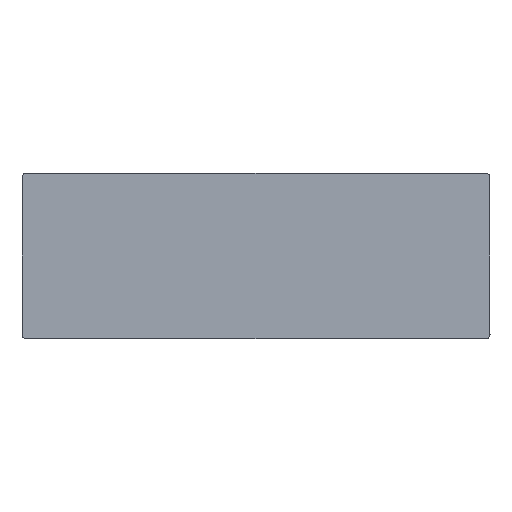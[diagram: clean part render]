
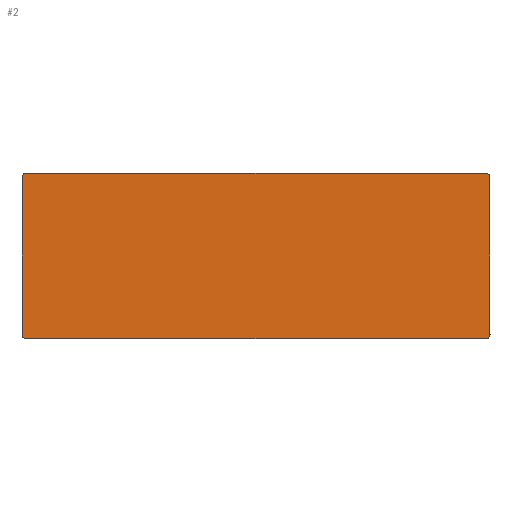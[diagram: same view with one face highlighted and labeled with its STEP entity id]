
A CAD part, front view. The second image highlights one B-rep face of the part: STEP entity #2.
In plain terms, the highlighted planar face has unit normal (0, -1, 0).
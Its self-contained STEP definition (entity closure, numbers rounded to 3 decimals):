
#2 = ADVANCED_FACE ( 'NONE', ( #410 ), #2525, .T. ) ;
#83 = VERTEX_POINT ( 'NONE', #630 ) ;
#87 = LINE ( 'NONE', #105, #1714 ) ;
#102 = CARTESIAN_POINT ( 'NONE',  ( 25.769, 0., -9.1 ) ) ;
#105 = CARTESIAN_POINT ( 'NONE',  ( -25.769, 0., -9.1 ) ) ;
#150 = VECTOR ( 'NONE', #2649, 1000. ) ;
#156 = VERTEX_POINT ( 'NONE', #441 ) ;
#181 = CARTESIAN_POINT ( 'NONE',  ( 25.769, 0., 8.6 ) ) ;
#189 = CARTESIAN_POINT ( 'NONE',  ( 25.269, 0., -9.1 ) ) ;
#297 = EDGE_CURVE ( 'NONE', #725, #83, #2522, .T. ) ;
#299 = VERTEX_POINT ( 'NONE', #181 ) ;
#312 = VERTEX_POINT ( 'NONE', #2295 ) ;
#329 = EDGE_CURVE ( 'NONE', #312, #852, #2640, .T. ) ;
#392 = CARTESIAN_POINT ( 'NONE',  ( -25.602, 0., -9.1 ) ) ;
#410 = FACE_OUTER_BOUND ( 'NONE', #1213, .T. ) ;
#428 = CARTESIAN_POINT ( 'NONE',  ( 25.769, 0., 8.933 ) ) ;
#441 = CARTESIAN_POINT ( 'NONE',  ( 25.269, 0., -9.1 ) ) ;
#476 = CARTESIAN_POINT ( 'NONE',  ( -25.769, 0., 8.6 ) ) ;
#518 = ORIENTED_EDGE ( 'NONE', *, *, #2557, .T. ) ;
#554 = B_SPLINE_CURVE_WITH_KNOTS ( 'NONE', 3,
 ( #189, #2748, #2332, #2735 ),
 .UNSPECIFIED., .F., .F.,
 ( 4, 4 ),
 ( 0., 1. ),
 .UNSPECIFIED. ) ;
#616 = CARTESIAN_POINT ( 'NONE',  ( 0., 0., 0. ) ) ;
#630 = CARTESIAN_POINT ( 'NONE',  ( 25.269, 0., 9.1 ) ) ;
#634 = CARTESIAN_POINT ( 'NONE',  ( 25.769, 0., -8.6 ) ) ;
#724 = AXIS2_PLACEMENT_3D ( 'NONE', #616, #1476, #1259 ) ;
#725 = VERTEX_POINT ( 'NONE', #1802 ) ;
#734 = CARTESIAN_POINT ( 'NONE',  ( 25.769, 0., -9.1 ) ) ;
#772 = LINE ( 'NONE', #102, #150 ) ;
#835 = CARTESIAN_POINT ( 'NONE',  ( -25.269, 0., 9.1 ) ) ;
#845 = CARTESIAN_POINT ( 'NONE',  ( -25.769, 0., 8.6 ) ) ;
#852 = VERTEX_POINT ( 'NONE', #2203 ) ;
#881 = B_SPLINE_CURVE_WITH_KNOTS ( 'NONE', 3,
 ( #1521, #428, #1751, #2138 ),
 .UNSPECIFIED., .F., .F.,
 ( 4, 4 ),
 ( 0., 1. ),
 .UNSPECIFIED. ) ;
#906 = EDGE_CURVE ( 'NONE', #156, #852, #772, .T. ) ;
#986 = CARTESIAN_POINT ( 'NONE',  ( 25.769, 0., 9.1 ) ) ;
#1004 = CARTESIAN_POINT ( 'NONE',  ( -25.769, 0., -8.933 ) ) ;
#1194 = ORIENTED_EDGE ( 'NONE', *, *, #329, .T. ) ;
#1205 = EDGE_CURVE ( 'NONE', #299, #1459, #1809, .T. ) ;
#1213 = EDGE_LOOP ( 'NONE', ( #2729, #1194, #2121, #1615, #2298, #2690, #2077, #518 ) ) ;
#1259 = DIRECTION ( 'NONE',  ( 0., 0., -1. ) ) ;
#1443 = EDGE_CURVE ( 'NONE', #299, #83, #881, .T. ) ;
#1459 = VERTEX_POINT ( 'NONE', #634 ) ;
#1476 = DIRECTION ( 'NONE',  ( 0., -1., 0. ) ) ;
#1521 = CARTESIAN_POINT ( 'NONE',  ( 25.769, 0., 8.6 ) ) ;
#1615 = ORIENTED_EDGE ( 'NONE', *, *, #1774, .T. ) ;
#1652 = DIRECTION ( 'NONE',  ( 1., 0., 0. ) ) ;
#1662 = CARTESIAN_POINT ( 'NONE',  ( -25.602, 0., 9.1 ) ) ;
#1671 = VECTOR ( 'NONE', #2221, 1000. ) ;
#1714 = VECTOR ( 'NONE', #2635, 1000. ) ;
#1751 = CARTESIAN_POINT ( 'NONE',  ( 25.602, 0., 9.1 ) ) ;
#1774 = EDGE_CURVE ( 'NONE', #156, #1459, #554, .T. ) ;
#1802 = CARTESIAN_POINT ( 'NONE',  ( -25.269, 0., 9.1 ) ) ;
#1809 = LINE ( 'NONE', #734, #1671 ) ;
#1852 = EDGE_CURVE ( 'NONE', #312, #2272, #87, .T. ) ;
#2075 = B_SPLINE_CURVE_WITH_KNOTS ( 'NONE', 3,
 ( #835, #1662, #2290, #845 ),
 .UNSPECIFIED., .F., .F.,
 ( 4, 4 ),
 ( 0., 1. ),
 .UNSPECIFIED. ) ;
#2077 = ORIENTED_EDGE ( 'NONE', *, *, #297, .F. ) ;
#2088 = CARTESIAN_POINT ( 'NONE',  ( -25.769, 0., -8.6 ) ) ;
#2121 = ORIENTED_EDGE ( 'NONE', *, *, #906, .F. ) ;
#2138 = CARTESIAN_POINT ( 'NONE',  ( 25.269, 0., 9.1 ) ) ;
#2203 = CARTESIAN_POINT ( 'NONE',  ( -25.269, 0., -9.1 ) ) ;
#2221 = DIRECTION ( 'NONE',  ( 0., 0., -1. ) ) ;
#2231 = VECTOR ( 'NONE', #1652, 1000. ) ;
#2272 = VERTEX_POINT ( 'NONE', #476 ) ;
#2290 = CARTESIAN_POINT ( 'NONE',  ( -25.769, 0., 8.933 ) ) ;
#2295 = CARTESIAN_POINT ( 'NONE',  ( -25.769, 0., -8.6 ) ) ;
#2298 = ORIENTED_EDGE ( 'NONE', *, *, #1205, .F. ) ;
#2332 = CARTESIAN_POINT ( 'NONE',  ( 25.769, 0., -8.933 ) ) ;
#2522 = LINE ( 'NONE', #986, #2231 ) ;
#2525 = PLANE ( 'NONE',  #724 ) ;
#2557 = EDGE_CURVE ( 'NONE', #725, #2272, #2075, .T. ) ;
#2635 = DIRECTION ( 'NONE',  ( 0., 0., 1. ) ) ;
#2640 = B_SPLINE_CURVE_WITH_KNOTS ( 'NONE', 3,
 ( #2088, #1004, #392, #2703 ),
 .UNSPECIFIED., .F., .F.,
 ( 4, 4 ),
 ( 0., 1. ),
 .UNSPECIFIED. ) ;
#2649 = DIRECTION ( 'NONE',  ( -1., 0., 0. ) ) ;
#2690 = ORIENTED_EDGE ( 'NONE', *, *, #1443, .T. ) ;
#2703 = CARTESIAN_POINT ( 'NONE',  ( -25.269, 0., -9.1 ) ) ;
#2729 = ORIENTED_EDGE ( 'NONE', *, *, #1852, .F. ) ;
#2735 = CARTESIAN_POINT ( 'NONE',  ( 25.769, 0., -8.6 ) ) ;
#2748 = CARTESIAN_POINT ( 'NONE',  ( 25.602, 0., -9.1 ) ) ;
